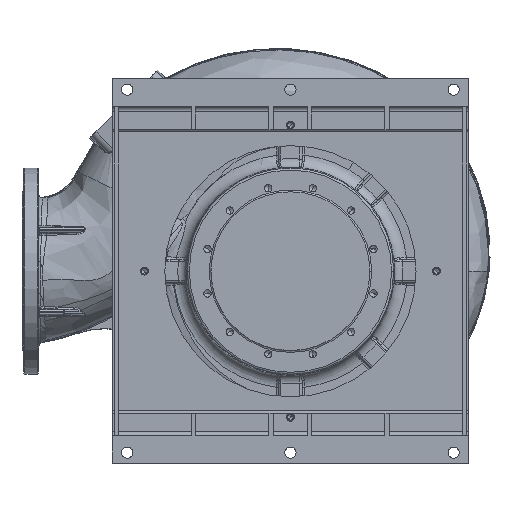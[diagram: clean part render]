
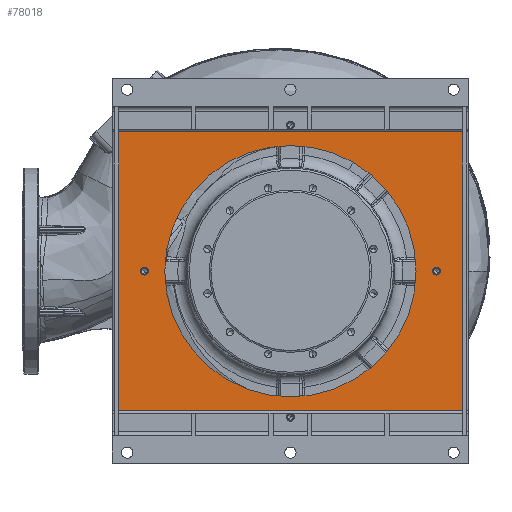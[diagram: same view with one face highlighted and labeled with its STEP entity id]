
A CAD part, front view. The second image highlights one B-rep face of the part: STEP entity #78018.
In plain terms, the highlighted planar face has unit normal (0, -1, 0).
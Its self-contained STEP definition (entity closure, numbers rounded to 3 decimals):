
#1503 = VECTOR ( 'NONE', #97119, 1000. ) ;
#1813 = EDGE_CURVE ( 'NONE', #50060, #143799, #145538, .T. ) ;
#2048 = EDGE_LOOP ( 'NONE', ( #65169, #70777 ) ) ;
#2450 = ORIENTED_EDGE ( 'NONE', *, *, #75436, .F. ) ;
#2891 = VECTOR ( 'NONE', #51327, 1000. ) ;
#4311 = EDGE_LOOP ( 'NONE', ( #50326, #55114 ) ) ;
#8521 = DIRECTION ( 'NONE',  ( -1., 0., 0. ) ) ;
#10553 = CARTESIAN_POINT ( 'NONE',  ( 210., -10., -385. ) ) ;
#10656 = AXIS2_PLACEMENT_3D ( 'NONE', #105568, #38022, #116940 ) ;
#10952 = ORIENTED_EDGE ( 'NONE', *, *, #127441, .F. ) ;
#12410 = CARTESIAN_POINT ( 'NONE',  ( 332.5, -10., 0. ) ) ;
#13089 = VERTEX_POINT ( 'NONE', #73593 ) ;
#13212 = VERTEX_POINT ( 'NONE', #12410 ) ;
#14538 = VECTOR ( 'NONE', #129652, 1000. ) ;
#14713 = DIRECTION ( 'NONE',  ( 0., -1., 0. ) ) ;
#15944 = VECTOR ( 'NONE', #89383, 1000. ) ;
#16476 = ORIENTED_EDGE ( 'NONE', *, *, #99849, .T. ) ;
#17369 = LINE ( 'NONE', #115918, #77274 ) ;
#18780 = DIRECTION ( 'NONE',  ( 0., 1., 0. ) ) ;
#19571 = ORIENTED_EDGE ( 'NONE', *, *, #95932, .T. ) ;
#21636 = ORIENTED_EDGE ( 'NONE', *, *, #34015, .T. ) ;
#22391 = FACE_OUTER_BOUND ( 'NONE', #126508, .T. ) ;
#22905 = DIRECTION ( 'NONE',  ( 1., 0., 0. ) ) ;
#25839 = CARTESIAN_POINT ( 'NONE',  ( 225., -10., -317.5 ) ) ;
#25983 = FACE_BOUND ( 'NONE', #133813, .T. ) ;
#29228 = AXIS2_PLACEMENT_3D ( 'NONE', #82191, #14713, #93560 ) ;
#31338 = DIRECTION ( 'NONE',  ( 0., 1., 0. ) ) ;
#31980 = CARTESIAN_POINT ( 'NONE',  ( 1040., -10., -385. ) ) ;
#34015 = EDGE_CURVE ( 'NONE', #72461, #13212, #132230, .T. ) ;
#34546 = CARTESIAN_POINT ( 'NONE',  ( 285., -10., 0. ) ) ;
#34562 = EDGE_CURVE ( 'NONE', #87225, #38113, #126676, .T. ) ;
#36254 = VERTEX_POINT ( 'NONE', #86971 ) ;
#37461 = AXIS2_PLACEMENT_3D ( 'NONE', #86323, #18780, #97629 ) ;
#38022 = DIRECTION ( 'NONE',  ( 0., -1., 0. ) ) ;
#38113 = VERTEX_POINT ( 'NONE', #100553 ) ;
#39437 = ORIENTED_EDGE ( 'NONE', *, *, #136864, .T. ) ;
#40181 = VECTOR ( 'NONE', #126772, 1000. ) ;
#41225 = CIRCLE ( 'NONE', #29228, 9. ) ;
#43378 = DIRECTION ( 'NONE',  ( 1., 0., 0. ) ) ;
#44580 = LINE ( 'NONE', #61998, #14538 ) ;
#45925 = DIRECTION ( 'NONE',  ( 1., 0., 0. ) ) ;
#47425 = VERTEX_POINT ( 'NONE', #125617 ) ;
#47839 = CARTESIAN_POINT ( 'NONE',  ( 1025., -10., 382.5 ) ) ;
#48388 = DIRECTION ( 'NONE',  ( -1., 0., 0. ) ) ;
#50060 = VERTEX_POINT ( 'NONE', #60987 ) ;
#50326 = ORIENTED_EDGE ( 'NONE', *, *, #99604, .F. ) ;
#51208 = CARTESIAN_POINT ( 'NONE',  ( 974., -10., 0. ) ) ;
#51327 = DIRECTION ( 'NONE',  ( 0., 0., -1. ) ) ;
#52478 = FACE_BOUND ( 'NONE', #2048, .T. ) ;
#54582 = CIRCLE ( 'NONE', #57616, 9. ) ;
#55114 = ORIENTED_EDGE ( 'NONE', *, *, #63938, .F. ) ;
#56507 = LINE ( 'NONE', #10553, #15944 ) ;
#57289 = VECTOR ( 'NONE', #22905, 1000. ) ;
#57616 = AXIS2_PLACEMENT_3D ( 'NONE', #34546, #113483, #45925 ) ;
#60987 = CARTESIAN_POINT ( 'NONE',  ( 956., -10., 0. ) ) ;
#61998 = CARTESIAN_POINT ( 'NONE',  ( 210., -10., -325.5 ) ) ;
#63938 = EDGE_CURVE ( 'NONE', #68663, #110711, #80942, .T. ) ;
#65169 = ORIENTED_EDGE ( 'NONE', *, *, #1813, .F. ) ;
#66208 = CARTESIAN_POINT ( 'NONE',  ( 917.5, -10., 0. ) ) ;
#68663 = VERTEX_POINT ( 'NONE', #83030 ) ;
#70777 = ORIENTED_EDGE ( 'NONE', *, *, #130155, .F. ) ;
#72461 = VERTEX_POINT ( 'NONE', #66208 ) ;
#73593 = CARTESIAN_POINT ( 'NONE',  ( 210., -10., 325.5 ) ) ;
#75436 = EDGE_CURVE ( 'NONE', #47425, #36254, #108739, .T. ) ;
#76518 = AXIS2_PLACEMENT_3D ( 'NONE', #102108, #138146, #138111 ) ;
#77274 = VECTOR ( 'NONE', #48388, 1000. ) ;
#78018 = ADVANCED_FACE ( 'NONE', ( #25983, #82380, #85941, #52478, #22391 ), #133219, .T. ) ;
#79814 = EDGE_CURVE ( 'NONE', #91003, #38113, #44580, .T. ) ;
#80286 = ORIENTED_EDGE ( 'NONE', *, *, #84649, .F. ) ;
#80942 = CIRCLE ( 'NONE', #10656, 9. ) ;
#80982 = AXIS2_PLACEMENT_3D ( 'NONE', #98843, #31338, #110274 ) ;
#82191 = CARTESIAN_POINT ( 'NONE',  ( 965., -10., 0. ) ) ;
#82380 = FACE_BOUND ( 'NONE', #140484, .T. ) ;
#83030 = CARTESIAN_POINT ( 'NONE',  ( 294., -10., 0. ) ) ;
#84649 = EDGE_CURVE ( 'NONE', #91003, #13089, #56507, .T. ) ;
#85199 = ORIENTED_EDGE ( 'NONE', *, *, #79814, .T. ) ;
#85941 = FACE_BOUND ( 'NONE', #4311, .T. ) ;
#86323 = CARTESIAN_POINT ( 'NONE',  ( 625., -10., 0. ) ) ;
#86971 = CARTESIAN_POINT ( 'NONE',  ( 215., -10., -317.5 ) ) ;
#87225 = VERTEX_POINT ( 'NONE', #114867 ) ;
#87302 = LINE ( 'NONE', #90466, #57289 ) ;
#87389 = CARTESIAN_POINT ( 'NONE',  ( 945., -10., -317.5 ) ) ;
#89383 = DIRECTION ( 'NONE',  ( 0., 0., 1. ) ) ;
#90466 = CARTESIAN_POINT ( 'NONE',  ( 210., -10., 325.5 ) ) ;
#91003 = VERTEX_POINT ( 'NONE', #135546 ) ;
#91561 = ORIENTED_EDGE ( 'NONE', *, *, #34562, .F. ) ;
#93560 = DIRECTION ( 'NONE',  ( 1., 0., 0. ) ) ;
#95932 = EDGE_CURVE ( 'NONE', #97230, #36254, #112576, .T. ) ;
#97119 = DIRECTION ( 'NONE',  ( 0., 0., -1. ) ) ;
#97230 = VERTEX_POINT ( 'NONE', #25839 ) ;
#97629 = DIRECTION ( 'NONE',  ( -1., 0., 0. ) ) ;
#98843 = CARTESIAN_POINT ( 'NONE',  ( 625., -10., 0. ) ) ;
#99604 = EDGE_CURVE ( 'NONE', #110711, #68663, #54582, .T. ) ;
#99849 = EDGE_CURVE ( 'NONE', #128972, #97230, #132253, .T. ) ;
#100553 = CARTESIAN_POINT ( 'NONE',  ( 1025., -10., -325.5 ) ) ;
#102108 = CARTESIAN_POINT ( 'NONE',  ( 965., -10., 0. ) ) ;
#104705 = CIRCLE ( 'NONE', #80982, 292.5 ) ;
#105568 = CARTESIAN_POINT ( 'NONE',  ( 285., -10., 0. ) ) ;
#108739 = LINE ( 'NONE', #118860, #2891 ) ;
#110274 = DIRECTION ( 'NONE',  ( -1., 0., 0. ) ) ;
#110711 = VERTEX_POINT ( 'NONE', #134177 ) ;
#110922 = DIRECTION ( 'NONE',  ( 0., -1., 0. ) ) ;
#112576 = LINE ( 'NONE', #87389, #142717 ) ;
#113483 = DIRECTION ( 'NONE',  ( 0., -1., 0. ) ) ;
#114867 = CARTESIAN_POINT ( 'NONE',  ( 1025., -10., 325.5 ) ) ;
#115918 = CARTESIAN_POINT ( 'NONE',  ( 945., -10., 317.5 ) ) ;
#116940 = DIRECTION ( 'NONE',  ( 1., 0., 0. ) ) ;
#118860 = CARTESIAN_POINT ( 'NONE',  ( 215., -10., 382.5 ) ) ;
#123244 = AXIS2_PLACEMENT_3D ( 'NONE', #31980, #110922, #43378 ) ;
#123435 = EDGE_CURVE ( 'NONE', #13089, #87225, #87302, .T. ) ;
#125617 = CARTESIAN_POINT ( 'NONE',  ( 215., -10., 317.5 ) ) ;
#126508 = EDGE_LOOP ( 'NONE', ( #80286, #85199, #91561, #130912 ) ) ;
#126676 = LINE ( 'NONE', #47839, #40181 ) ;
#126772 = DIRECTION ( 'NONE',  ( 0., 0., -1. ) ) ;
#127441 = EDGE_CURVE ( 'NONE', #128972, #47425, #17369, .T. ) ;
#128059 = CARTESIAN_POINT ( 'NONE',  ( 225., -10., 317.5 ) ) ;
#128972 = VERTEX_POINT ( 'NONE', #128059 ) ;
#129652 = DIRECTION ( 'NONE',  ( 1., 0., 0. ) ) ;
#130155 = EDGE_CURVE ( 'NONE', #143799, #50060, #41225, .T. ) ;
#130912 = ORIENTED_EDGE ( 'NONE', *, *, #123435, .F. ) ;
#132230 = CIRCLE ( 'NONE', #37461, 292.5 ) ;
#132253 = LINE ( 'NONE', #140194, #1503 ) ;
#133219 = PLANE ( 'NONE',  #123244 ) ;
#133813 = EDGE_LOOP ( 'NONE', ( #2450, #10952, #16476, #19571 ) ) ;
#134177 = CARTESIAN_POINT ( 'NONE',  ( 276., -10., 0. ) ) ;
#135546 = CARTESIAN_POINT ( 'NONE',  ( 210., -10., -325.5 ) ) ;
#136864 = EDGE_CURVE ( 'NONE', #13212, #72461, #104705, .T. ) ;
#138111 = DIRECTION ( 'NONE',  ( 1., 0., 0. ) ) ;
#138146 = DIRECTION ( 'NONE',  ( 0., -1., 0. ) ) ;
#140194 = CARTESIAN_POINT ( 'NONE',  ( 225., -10., 382.5 ) ) ;
#140484 = EDGE_LOOP ( 'NONE', ( #21636, #39437 ) ) ;
#142717 = VECTOR ( 'NONE', #8521, 1000. ) ;
#143799 = VERTEX_POINT ( 'NONE', #51208 ) ;
#145538 = CIRCLE ( 'NONE', #76518, 9. ) ;
